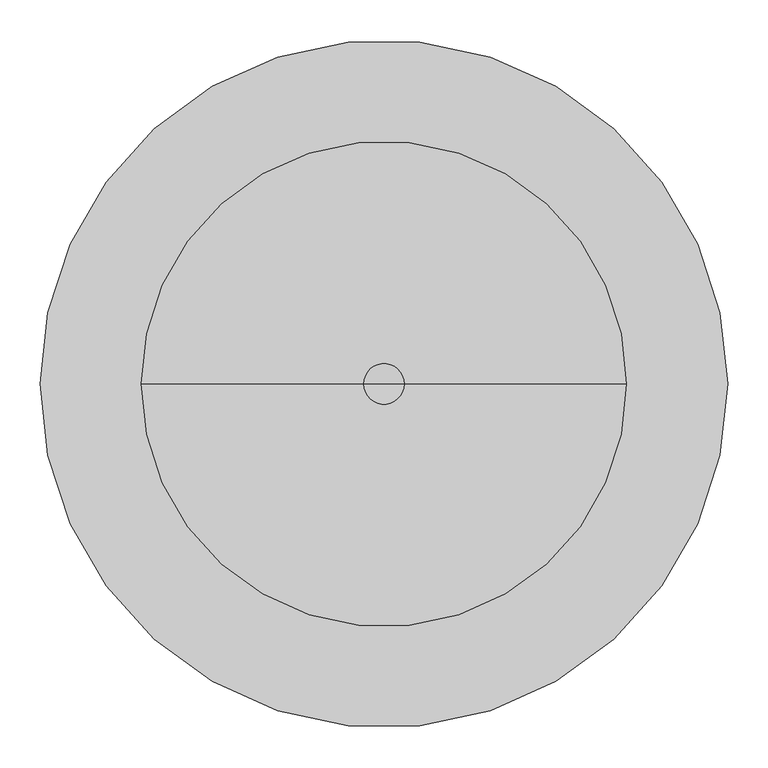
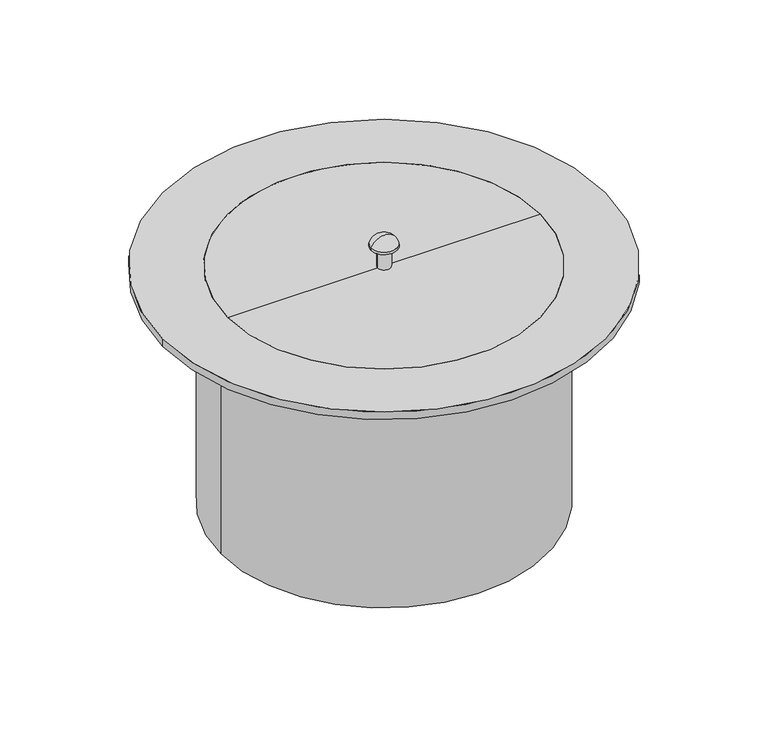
"""IFC4 building model written with IfcOpenShell, lengths in millimetres: proxy geometry, GRAF DW Tele Dome Shaft Maxi - Pedestrian Load : DW Tele Dome Shaft Maxi - Pedestrian Load."""

from ifc_helpers import new_model, si_unit, point, frame, origin, origin_2d, place, context, project, spatial, polyline, circle_curve, ellipse_curve, trimmed, segment, composite_curve, outline, extrude, source, transform, mapped, element, save
from ifc_brep_helpers import plane_surface, cylinder_surface, revolved_surface, advanced_brep


def specialty_equipment_d7f88c08(model_context):
    return source(origin(), model_context, "Body", "SolidModel", [
        advanced_brep(
        [(75.0, 0.0, -165.0), (-75.0, 0.0, -165.0), (-65.0, 0.0, -155.0), (65.0, 0.0, -155.0), (75.0, 0.0, -230.0), (-75.0, 0.0, -230.0), (12.5, 0.0, -240.0), (-12.5, 0.0, -240.0), (12.5, 0.0, -250.0), (-12.5, 0.0, -250.0), (0.0, 0.0, -250.0), (0.0, 0.0, -150.0)],
        [
            (0, 1, circle_curve(frame((0.0, 0.0, -165.0), z_axis=(0.0, 0.0, 1.0), x_axis=(-1.0, 0.0, 0.0)), 75.0)),
            (1, 2, circle_curve(frame((-65.0, 0.0, -165.0), z_axis=(0.0, 1.0, 0.0), x_axis=(1.0, 0.0, 0.0)), 10.0)),
            (2, 3, circle_curve(frame((0.0, 0.0, -155.0), z_axis=(0.0, 0.0, -1.0), x_axis=(-1.0, 0.0, 0.0)), 65.0)),
            (3, 0, circle_curve(frame((65.0, 0.0, -165.0), z_axis=(0.0, 1.0, 0.0), x_axis=(-1.0, 0.0, 0.0)), 10.0)),
            (1, 0, circle_curve(frame((0.0, 0.0, -165.0), z_axis=(0.0, 0.0, 1.0), x_axis=(-1.0, 0.0, 0.0)), 75.0)),
            (3, 2, circle_curve(frame((0.0, 0.0, -155.0), z_axis=(0.0, 0.0, -1.0), x_axis=(-1.0, 0.0, 0.0)), 65.0)),
            (4, 5, circle_curve(frame((0.0, 0.0, -230.0), z_axis=(0.0, 0.0, 1.0), x_axis=(-1.0, 0.0, 0.0)), 75.0)),
            (5, 1),
            (0, 4),
            (5, 4, circle_curve(frame((0.0, 0.0, -230.0), z_axis=(0.0, 0.0, 1.0), x_axis=(-1.0, 0.0, 0.0)), 75.0)),
            (6, 7, circle_curve(frame((0.0, 0.0, -240.0), z_axis=(0.0, 0.0, 1.0), x_axis=(-1.0, 0.0, 0.0)), 12.5)),
            (7, 5),
            (4, 6),
            (7, 6, circle_curve(frame((0.0, 0.0, -240.0), z_axis=(0.0, 0.0, 1.0), x_axis=(-1.0, 0.0, 0.0)), 12.5)),
            (8, 9, circle_curve(frame((0.0, 0.0, -250.0), z_axis=(0.0, 0.0, 1.0), x_axis=(-1.0, 0.0, 0.0)), 12.5)),
            (9, 7),
            (6, 8),
            (9, 8, circle_curve(frame((0.0, 0.0, -250.0), z_axis=(0.0, 0.0, 1.0), x_axis=(-1.0, 0.0, 0.0)), 12.5)),
            (10, 9),
            (8, 10),
            (2, 11, circle_curve(frame((0.0, 0.0, -575.0), z_axis=(0.0, 1.0, 0.0), x_axis=(1.0, 0.0, 0.0)), 425.0)),
            (11, 3, circle_curve(frame((0.0, 0.0, -575.0), z_axis=(0.0, 1.0, 0.0), x_axis=(-1.0, 0.0, 0.0)), 425.0)),
        ],
        [
            revolved_surface(trimmed(ellipse_curve(frame((-65.0, 0.0, -165.0), z_axis=(0.0, -1.0, 0.0), x_axis=(1.0, 0.0, 0.0)), 10.0, 10.0), [point((-65.0, 0.0, -155.0))], [point((-75.0, 0.0, -165.0))], True, "CARTESIAN"), (0.0, 0.0, -295.0), (0.0, 0.0, -1.0)),
            cylinder_surface(frame((0.0, 0.0, -295.0), z_axis=(0.0, 0.0, -1.0), x_axis=(-1.0, 0.0, 0.0)), 75.0),
            revolved_surface(polyline([(-75.0, 0.0, -230.0), (-12.5, 0.0, -240.0)]), (0.0, 0.0, -295.0), (0.0, 0.0, -1.0)),
            cylinder_surface(frame((0.0, 0.0, -295.0), z_axis=(0.0, 0.0, -1.0), x_axis=(-1.0, 0.0, 0.0)), 12.5),
            plane_surface(frame((0.0, 0.0, -250.0), z_axis=(0.0, 0.0, -1.0), x_axis=(-1.0, 0.0, 0.0))),
            revolved_surface(trimmed(ellipse_curve(frame((0.0, 0.0, -575.0), z_axis=(0.0, -1.0, 0.0), x_axis=(1.0, 0.0, 0.0)), 425.0, 425.0), [point((0.0, 0.0, -150.0))], [point((-65.0, 0.0, -155.0))], True, "CARTESIAN"), (0.0, 0.0, -295.0), (0.0, 0.0, -1.0)),
        ],
        [
            (0, [[1, 2, 3, 4]]),
            (0, [[5, -4, 6, -2]]),
            (1, [[7, 8, -1, 9]]),
            (1, [[10, -9, -5, -8]]),
            (2, [[11, 12, -7, 13]]),
            (2, [[14, -13, -10, -12]]),
            (3, [[15, 16, -11, 17]]),
            (3, [[18, -17, -14, -16]]),
            (4, [[19, -15, 20]]),
            (4, [[-20, -18, -19]]),
            (5, [[-3, 21, 22]]),
            (5, [[-6, -22, -21]]),
        ],
    ),
        advanced_brep(
        [(-313.0, 0.0, -14.9500624), (313.0, 0.0, -14.9500624), (-300.0, 0.0, -14.9500624), (300.0, 0.0, -14.9500624), (-313.0, 0.0, -476.0), (313.0, 0.0, -476.0), (-300.0, 0.0, -476.0), (300.0, 0.0, -476.0), (-313.0, 0.0, -261.0), (-313.0, 0.0, -271.0), (313.0, 0.0, -271.0), (313.0, 0.0, -261.0), (-300.0, 0.0, -250.0), (-298.9565186, 25.0, -250.0), (-298.9565186, 25.0, -260.0), (-300.0, 0.0, -260.0), (-300.0, 0.0, -261.0), (300.0, 0.0, -261.0), (300.0, 0.0, -260.0), (298.9565186, 25.0, -260.0), (298.9565186, 25.0, -250.0), (300.0, 0.0, -250.0), (300.0, 0.0, -271.0), (-300.0, 0.0, -271.0), (298.9565186, -25.0, -250.0), (298.9565186, -25.0, -260.0), (-298.9565186, -25.0, -260.0), (-298.9565186, -25.0, -250.0), (263.0, 0.0, -271.0), (-263.0, 0.0, -271.0), (263.0, 0.0, -261.0), (-263.0, 0.0, -261.0)],
        [
            (0, 1, circle_curve(frame((0.0, 0.0, -14.9500624), z_axis=(0.0, 0.0, 1.0), x_axis=(1.0, 0.0, 0.0)), 313.0)),
            (1, 0, circle_curve(frame((0.0, 0.0, -14.9500624), z_axis=(0.0, 0.0, 1.0), x_axis=(1.0, 0.0, 0.0)), 313.0)),
            (2, 3, circle_curve(frame((0.0, 0.0, -14.9500624), z_axis=(0.0, 0.0, -1.0), x_axis=(1.0, 0.0, 0.0)), 300.0)),
            (3, 2, circle_curve(frame((0.0, 0.0, -14.9500624), z_axis=(0.0, 0.0, -1.0), x_axis=(1.0, 0.0, 0.0)), 300.0)),
            (4, 5, circle_curve(frame((0.0, 0.0, -476.0), z_axis=(0.0, 0.0, -1.0), x_axis=(1.0, 0.0, 0.0)), 313.0)),
            (5, 4, circle_curve(frame((0.0, 0.0, -476.0), z_axis=(0.0, 0.0, -1.0), x_axis=(1.0, 0.0, 0.0)), 313.0)),
            (6, 7, circle_curve(frame((0.0, 0.0, -476.0), z_axis=(0.0, 0.0, 1.0), x_axis=(1.0, 0.0, 0.0)), 300.0)),
            (7, 6, circle_curve(frame((0.0, 0.0, -476.0), z_axis=(0.0, 0.0, 1.0), x_axis=(1.0, 0.0, 0.0)), 300.0)),
            (0, 8),
            (8, 9),
            (9, 4),
            (5, 10),
            (10, 11),
            (11, 1),
            (2, 12),
            (12, 13, circle_curve(frame((0.0, 0.0, -250.0), z_axis=(0.0, 0.0, -1.0), x_axis=(1.0, 0.0, 0.0)), 300.0)),
            (13, 14),
            (14, 15, circle_curve(frame((0.0, 0.0, -260.0), z_axis=(0.0, 0.0, 1.0), x_axis=(1.0, 0.0, 0.0)), 300.0)),
            (15, 16),
            (16, 17, circle_curve(frame((0.0, 0.0, -261.0), z_axis=(0.0, 0.0, -1.0), x_axis=(1.0, 0.0, 0.0)), 300.0)),
            (17, 18),
            (18, 19, circle_curve(frame((0.0, 0.0, -260.0), z_axis=(0.0, 0.0, 1.0), x_axis=(1.0, 0.0, 0.0)), 300.0)),
            (19, 20),
            (20, 21, circle_curve(frame((0.0, 0.0, -250.0), z_axis=(0.0, 0.0, -1.0), x_axis=(1.0, 0.0, 0.0)), 300.0)),
            (21, 3),
            (7, 22),
            (22, 23, circle_curve(frame((0.0, 0.0, -271.0), z_axis=(0.0, 0.0, 1.0), x_axis=(1.0, 0.0, 0.0)), 300.0)),
            (23, 6),
            (21, 24, circle_curve(frame((0.0, 0.0, -250.0), z_axis=(0.0, 0.0, -1.0), x_axis=(1.0, 0.0, 0.0)), 300.0)),
            (24, 25),
            (25, 18, circle_curve(frame((0.0, 0.0, -260.0), z_axis=(0.0, 0.0, 1.0), x_axis=(1.0, 0.0, 0.0)), 300.0)),
            (17, 16, circle_curve(frame((0.0, 0.0, -261.0), z_axis=(0.0, 0.0, -1.0), x_axis=(1.0, 0.0, 0.0)), 300.0)),
            (15, 26, circle_curve(frame((0.0, 0.0, -260.0), z_axis=(0.0, 0.0, 1.0), x_axis=(1.0, 0.0, 0.0)), 300.0)),
            (26, 27),
            (27, 12, circle_curve(frame((0.0, 0.0, -250.0), z_axis=(0.0, 0.0, -1.0), x_axis=(1.0, 0.0, 0.0)), 300.0)),
            (23, 22, circle_curve(frame((0.0, 0.0, -271.0), z_axis=(0.0, 0.0, 1.0), x_axis=(1.0, 0.0, 0.0)), 300.0)),
            (28, 29, circle_curve(frame((0.0, 0.0, -271.0), z_axis=(0.0, 0.0, 1.0), x_axis=(-1.0, 0.0, 0.0)), 263.0)),
            (29, 23),
            (22, 28),
            (29, 28, circle_curve(frame((0.0, 0.0, -271.0), z_axis=(0.0, 0.0, 1.0), x_axis=(-1.0, 0.0, 0.0)), 263.0)),
            (28, 30),
            (30, 31, circle_curve(frame((0.0, 0.0, -261.0), z_axis=(0.0, 0.0, 1.0), x_axis=(-1.0, 0.0, 0.0)), 263.0)),
            (31, 29),
            (31, 30, circle_curve(frame((0.0, 0.0, -261.0), z_axis=(0.0, 0.0, 1.0), x_axis=(-1.0, 0.0, 0.0)), 263.0)),
            (30, 17),
            (16, 31),
            (24, 27),
            (26, 25),
            (19, 14),
            (13, 20),
        ],
        [
            plane_surface(frame((313.0, 0.0, -14.9500624), z_axis=(0.0, 0.0, 1.0), x_axis=(0.0, 1.0, 0.0))),
            plane_surface(frame((313.0, 0.0, -476.0), z_axis=(0.0, 0.0, -1.0), x_axis=(0.0, -1.0, 0.0))),
            cylinder_surface(frame((0.0, 0.0, -476.0), z_axis=(0.0, 0.0, 1.0), x_axis=(1.0, 0.0, 0.0)), 313.0),
            revolved_surface(polyline([(300.0, 0.0, -261.0), (300.0, 0.0, -14.950062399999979)]), (0.0, 0.0, -340.0), (0.0, 0.0, -1.0)),
            revolved_surface(polyline([(300.0, 0.0, -476.0), (300.0, 0.0, -271.0)]), (0.0, 0.0, -340.0), (0.0, 0.0, -1.0)),
            plane_surface(frame((0.0, 0.0, -271.0), z_axis=(0.0, 0.0, -1.0), x_axis=(-1.0, 0.0, 0.0))),
            revolved_surface(polyline([(-263.0, 0.0, -271.0), (-263.0, 0.0, -261.0)]), (0.0, 0.0, -311.0), (0.0, 0.0, -1.0)),
            plane_surface(frame((0.0, 0.0, -261.0), z_axis=(0.0, 0.0, 1.0), x_axis=(-1.0, 0.0, 0.0))),
            plane_surface(frame((-311.0, -25.0, -250.0), z_axis=(0.0, -1.0, 0.0), x_axis=(-1.0, 0.0, 0.0))),
            plane_surface(frame((-311.0, 25.0, -250.0), z_axis=(0.0, 1.0, 0.0), x_axis=(1.0, 0.0, 0.0))),
            plane_surface(frame((311.0, -25.0, -250.0), z_axis=(0.0, 0.0, 1.0), x_axis=(0.0, 1.0, 0.0))),
            plane_surface(frame((-311.0, -25.0, -260.0), z_axis=(0.0, 0.0, -1.0), x_axis=(0.0, 1.0, 0.0))),
        ],
        [
            (0, [[1, 2], [3, 4]]),
            (1, [[5, 6], [7, 8]]),
            (2, [[-1, 9, 10, 11, -6, 12, 13, 14]]),
            (2, [[-2, -14, -13, -12, -5, -11, -10, -9]]),
            (3, [[-3, 15, 16, 17, 18, 19, 20, 21, 22, 23, 24, 25]]),
            (4, [[-8, 26, 27, 28]]),
            (3, [[-4, -25, 29, 30, 31, -21, 32, -19, 33, 34, 35, -15]]),
            (4, [[-7, -28, 36, -26]]),
            (5, [[37, 38, -27, 39]]),
            (5, [[40, -39, -36, -38]]),
            (6, [[-37, 41, 42, 43]]),
            (6, [[-40, -43, 44, -41]]),
            (7, [[-42, 45, -20, 46]]),
            (7, [[-44, -46, -32, -45]]),
            (8, [[47, -34, 48, -30]]),
            (9, [[49, -17, 50, -23]]),
            (10, [[-47, -29, -24, -50, -16, -35]]),
            (11, [[-48, -33, -18, -49, -22, -31]]),
        ],
    ),
        advanced_brep(
        [(0.0, 0.0, 0.0), (-12.499942, 0.0, 0.0), (12.499942, 0.0, 0.0), (-12.499942, 0.0, 40.0), (12.499942, 0.0, 40.0), (24.999942, 0.0, 45.0), (-24.999942, 0.0, 45.0), (0.0, 0.0, 62.4319426), (24.999942, 0.0, 40.0), (-24.999942, 0.0, 40.0)],
        [
            (0, 1),
            (1, 2, circle_curve(frame((0.0, 0.0, 0.0), z_axis=(0.0, 0.0, -1.0), x_axis=(-1.0, 0.0, 0.0)), 12.499942)),
            (2, 0),
            (2, 1, circle_curve(frame((0.0, 0.0, 0.0), z_axis=(0.0, 0.0, -1.0), x_axis=(-1.0, 0.0, 0.0)), 12.499942)),
            (1, 3),
            (3, 4, circle_curve(frame((0.0, 0.0, 40.0), z_axis=(0.0, 0.0, -1.0), x_axis=(-1.0, 0.0, 0.0)), 12.499942)),
            (4, 2),
            (4, 3, circle_curve(frame((0.0, 0.0, 40.0), z_axis=(0.0, 0.0, -1.0), x_axis=(-1.0, 0.0, 0.0)), 12.499942)),
            (5, 6, circle_curve(frame((0.0, 0.0, 45.0), z_axis=(0.0, 0.0, 1.0), x_axis=(-1.0, 0.0, 0.0)), 24.999942)),
            (6, 7, circle_curve(frame((5.8e-05, 0.0, 35.7891109), z_axis=(0.0, 1.0, 0.0), x_axis=(1.0, 0.0, 0.0)), 26.6428316)),
            (7, 5, circle_curve(frame((-5.8e-05, 0.0, 35.7891109), z_axis=(0.0, 1.0, 0.0), x_axis=(-1.0, 0.0, 0.0)), 26.6428316)),
            (6, 5, circle_curve(frame((0.0, 0.0, 45.0), z_axis=(0.0, 0.0, 1.0), x_axis=(-1.0, 0.0, 0.0)), 24.999942)),
            (8, 9, circle_curve(frame((0.0, 0.0, 40.0), z_axis=(0.0, 0.0, 1.0), x_axis=(-1.0, 0.0, 0.0)), 24.999942)),
            (9, 6),
            (5, 8),
            (9, 8, circle_curve(frame((0.0, 0.0, 40.0), z_axis=(0.0, 0.0, 1.0), x_axis=(-1.0, 0.0, 0.0)), 24.999942)),
            (3, 9),
            (8, 4),
        ],
        [
            plane_surface(frame((0.0, 0.0, 0.0), z_axis=(0.0, 0.0, -1.0), x_axis=(-1.0, 0.0, 0.0))),
            cylinder_surface(frame((0.0, 0.0, -10.0), z_axis=(0.0, 0.0, -1.0), x_axis=(-1.0, 0.0, 0.0)), 12.499942),
            revolved_surface(trimmed(ellipse_curve(frame((5.8e-05, 0.0, 35.7891109), z_axis=(0.0, -1.0, 0.0), x_axis=(1.0, 0.0, 0.0)), 26.6428316, 26.6428316), [point((0.0, 0.0, 62.4319426))], [point((-24.999942, 0.0, 45.0))], True, "CARTESIAN"), (0.0, 0.0, -10.0), (0.0, 0.0, -1.0)),
            cylinder_surface(frame((0.0, 0.0, -10.0), z_axis=(0.0, 0.0, -1.0), x_axis=(-1.0, 0.0, 0.0)), 24.999942),
            plane_surface(frame((0.0, 0.0, 40.0), z_axis=(0.0, 0.0, -1.0), x_axis=(-1.0, 0.0, 0.0))),
        ],
        [
            (0, [[1, 2, 3]]),
            (0, [[-3, 4, -1]]),
            (1, [[-2, 5, 6, 7]]),
            (1, [[-4, -7, 8, -5]]),
            (2, [[9, 10, 11]]),
            (2, [[12, -11, -10]]),
            (3, [[13, 14, -9, 15]]),
            (3, [[16, -15, -12, -14]]),
            (4, [[-6, 17, -13, 18]]),
            (4, [[-8, -18, -16, -17]]),
        ],
    ),
        extrude(outline(composite_curve([segment(trimmed(circle_curve(origin_2d(), 425.0), [point((-425.0, 0.0))], [point((425.0, 0.0))], False, "CARTESIAN"), True, "CONTINUOUS"), segment(trimmed(circle_curve(origin_2d(), 425.0), [point((425.0, 0.0))], [point((-425.0, 0.0))], False, "CARTESIAN"), True, "CONTINUOUS")], self_intersect=False), holes=[composite_curve([segment(trimmed(circle_curve(origin_2d(), 300.0), [point((-300.0, 0.0))], [point((300.0, 0.0))], True, "CARTESIAN"), True, "CONTINUOUS"), segment(trimmed(circle_curve(origin_2d(), 300.0), [point((300.0, 0.0))], [point((-300.0, 0.0))], True, "CARTESIAN"), True, "CONTINUOUS")], self_intersect=False)]), frame((0.0, 0.0, -14.9500624), z_axis=(0.0, 0.0, 1.0), x_axis=(1.0, 0.0, 0.0)), (0.0, 0.0, 1.0), 14.9500624),
        extrude(outline(composite_curve([segment(trimmed(circle_curve(origin_2d(), 313.0), [point((-260.5755532, -173.4052511))], [point((-208.7240033, -233.2451295))], True, "CARTESIAN"), True, "CONTINUOUS"), segment(polyline([(-208.7240033, -233.2451295), (-225.0974564, -252.1411016)]), True, "CONTINUOUS"), segment(trimmed(circle_curve(origin_2d(), 338.0), [point((-225.0974564, -252.1411016))], [point((-281.6093769, -186.9228688))], False, "CARTESIAN"), True, "CONTINUOUS"), segment(polyline([(-281.6093769, -186.9228688), (-260.5755532, -173.4052511)]), True, "CONTINUOUS")], self_intersect=False)), frame((0.0, 0.0, -40.0), z_axis=(0.0, 0.0, 1.0), x_axis=(1.0, 0.0, 0.0)), (0.0, 0.0, 1.0), 25.0499376),
        extrude(outline(composite_curve([segment(polyline([(-265.9819613, -164.9927157), (-287.015785, -178.5103334)]), True, "CONTINUOUS"), segment(trimmed(circle_curve(origin_2d(), 338.0), [point((-287.015785, -178.5103334))], [point((-322.8644761, -100.0126494))], False, "CARTESIAN"), True, "CONTINUOUS"), segment(polyline([(-322.8644761, -100.0126494), (-298.8743171, -92.9685031)]), True, "CONTINUOUS"), segment(trimmed(circle_curve(origin_2d(), 313.0), [point((-298.8743171, -92.9685031))], [point((-265.9819613, -164.9927157))], True, "CARTESIAN"), True, "CONTINUOUS")], self_intersect=False)), frame((0.0, 0.0, -40.0), z_axis=(0.0, 0.0, 1.0), x_axis=(1.0, 0.0, 0.0)), (0.0, 0.0, 1.0), 25.0499376),
        extrude(outline(composite_curve([segment(polyline([(-312.9600613, 5.0), (-337.9630157, 5.0)]), True, "CONTINUOUS"), segment(trimmed(circle_curve(origin_2d(), 338.0), [point((-337.9630157, 5.0))], [point((-325.6818017, 90.4177197))], False, "CARTESIAN"), True, "CONTINUOUS"), segment(polyline([(-325.6818017, 90.4177197), (-301.6916427, 83.3735734)]), True, "CONTINUOUS"), segment(trimmed(circle_curve(origin_2d(), 313.0), [point((-301.6916427, 83.3735734))], [point((-312.9600613, 5.0))], True, "CARTESIAN"), True, "CONTINUOUS")], self_intersect=False)), frame((0.0, 0.0, -40.0), z_axis=(0.0, 0.0, 1.0), x_axis=(1.0, 0.0, 0.0)), (0.0, 0.0, 1.0), 25.0499376),
        extrude(outline(composite_curve([segment(trimmed(circle_curve(origin_2d(), 313.0), [point((-312.9600613, -5.0))], [point((-301.6916427, -83.3735734))], True, "CARTESIAN"), True, "CONTINUOUS"), segment(polyline([(-301.6916427, -83.3735734), (-325.6818017, -90.4177197)]), True, "CONTINUOUS"), segment(trimmed(circle_curve(origin_2d(), 338.0), [point((-325.6818017, -90.4177197))], [point((-337.9630157, -5.0))], False, "CARTESIAN"), True, "CONTINUOUS"), segment(polyline([(-337.9630157, -5.0), (-312.9600613, -5.0)]), True, "CONTINUOUS")], self_intersect=False)), frame((0.0, 0.0, -40.0), z_axis=(0.0, 0.0, 1.0), x_axis=(1.0, 0.0, 0.0)), (0.0, 0.0, 1.0), 25.0499376),
        extrude(outline(composite_curve([segment(trimmed(circle_curve(origin_2d(), 313.0), [point((-265.9819613, 164.9927157))], [point((-298.8743171, 92.9685031))], True, "CARTESIAN"), True, "CONTINUOUS"), segment(polyline([(-298.8743171, 92.9685031), (-322.8644761, 100.0126494)]), True, "CONTINUOUS"), segment(trimmed(circle_curve(origin_2d(), 338.0), [point((-322.8644761, 100.0126494))], [point((-287.015785, 178.5103334))], False, "CARTESIAN"), True, "CONTINUOUS"), segment(polyline([(-287.015785, 178.5103334), (-265.9819613, 164.9927157)]), True, "CONTINUOUS")], self_intersect=False)), frame((0.0, 0.0, -40.0), z_axis=(0.0, 0.0, 1.0), x_axis=(1.0, 0.0, 0.0)), (0.0, 0.0, 1.0), 25.0499376),
        extrude(outline(composite_curve([segment(polyline([(-260.5755532, 173.4052511), (-281.6093769, 186.9228688)]), True, "CONTINUOUS"), segment(trimmed(circle_curve(origin_2d(), 338.0), [point((-281.6093769, 186.9228688))], [point((-225.0974564, 252.1411016))], False, "CARTESIAN"), True, "CONTINUOUS"), segment(polyline([(-225.0974564, 252.1411016), (-208.7240033, 233.2451295)]), True, "CONTINUOUS"), segment(trimmed(circle_curve(origin_2d(), 313.0), [point((-208.7240033, 233.2451295))], [point((-260.5755532, 173.4052511))], True, "CARTESIAN"), True, "CONTINUOUS")], self_intersect=False)), frame((0.0, 0.0, -40.0), z_axis=(0.0, 0.0, 1.0), x_axis=(1.0, 0.0, 0.0)), (0.0, 0.0, 1.0), 25.0499376),
        extrude(outline(composite_curve([segment(polyline([(208.7240033, 233.2451295), (225.0974564, 252.1411016)]), True, "CONTINUOUS"), segment(trimmed(circle_curve(origin_2d(), 338.0), [point((225.0974564, 252.1411016))], [point((281.6093769, 186.9228688))], False, "CARTESIAN"), True, "CONTINUOUS"), segment(polyline([(281.6093769, 186.9228688), (260.5755532, 173.4052511)]), True, "CONTINUOUS"), segment(trimmed(circle_curve(origin_2d(), 313.0), [point((260.5755532, 173.4052511))], [point((208.7240033, 233.2451295))], True, "CARTESIAN"), True, "CONTINUOUS")], self_intersect=False)), frame((0.0, 0.0, -40.0), z_axis=(0.0, 0.0, 1.0), x_axis=(1.0, 0.0, 0.0)), (0.0, 0.0, 1.0), 25.0499376),
        extrude(outline(composite_curve([segment(trimmed(circle_curve(origin_2d(), 313.0), [point((201.1665076, 239.7937368))], [point((134.5564679, 282.60141))], True, "CARTESIAN"), True, "CONTINUOUS"), segment(polyline([(134.5564679, 282.60141), (144.9430705, 305.3448973)]), True, "CONTINUOUS"), segment(trimmed(circle_curve(origin_2d(), 338.0), [point((144.9430705, 305.3448973))], [point((217.5399607, 258.689709))], False, "CARTESIAN"), True, "CONTINUOUS"), segment(polyline([(217.5399607, 258.689709), (201.1665076, 239.7937368)]), True, "CONTINUOUS")], self_intersect=False)), frame((0.0, 0.0, -40.0), z_axis=(0.0, 0.0, 1.0), x_axis=(1.0, 0.0, 0.0)), (0.0, 0.0, 1.0), 25.0499376),
        extrude(outline(composite_curve([segment(trimmed(circle_curve(origin_2d(), 313.0), [point((39.5897533, 310.4861534))], [point((-39.5897533, 310.4861534))], True, "CARTESIAN"), True, "CONTINUOUS"), segment(polyline([(-39.5897533, 310.4861534), (-43.1480447, 335.2346137)]), True, "CONTINUOUS"), segment(trimmed(circle_curve(origin_2d(), 338.0), [point((-43.1480447, 335.2346137))], [point((43.1480447, 335.2346137))], False, "CARTESIAN"), True, "CONTINUOUS"), segment(polyline([(43.1480447, 335.2346137), (39.5897533, 310.4861534)]), True, "CONTINUOUS")], self_intersect=False)), frame((0.0, 0.0, -40.0), z_axis=(0.0, 0.0, 1.0), x_axis=(1.0, 0.0, 0.0)), (0.0, 0.0, 1.0), 25.0499376),
        extrude(outline(composite_curve([segment(polyline([(49.4879677, 309.063005), (53.0462591, 333.8114653)]), True, "CONTINUOUS"), segment(trimmed(circle_curve(origin_2d(), 338.0), [point((53.0462591, 333.8114653))], [point((135.8467506, 309.4990474))], False, "CARTESIAN"), True, "CONTINUOUS"), segment(polyline([(135.8467506, 309.4990474), (125.460148, 286.7555601)]), True, "CONTINUOUS"), segment(trimmed(circle_curve(origin_2d(), 313.0), [point((125.460148, 286.7555601))], [point((49.4879677, 309.063005))], True, "CARTESIAN"), True, "CONTINUOUS")], self_intersect=False)), frame((0.0, 0.0, -40.0), z_axis=(0.0, 0.0, 1.0), x_axis=(1.0, 0.0, 0.0)), (0.0, 0.0, 1.0), 25.0499376),
        extrude(outline(composite_curve([segment(polyline([(-125.460148, 286.7555601), (-135.8467506, 309.4990474)]), True, "CONTINUOUS"), segment(trimmed(circle_curve(origin_2d(), 338.0), [point((-135.8467506, 309.4990474))], [point((-53.0462591, 333.8114653))], False, "CARTESIAN"), True, "CONTINUOUS"), segment(polyline([(-53.0462591, 333.8114653), (-49.4879677, 309.063005)]), True, "CONTINUOUS"), segment(trimmed(circle_curve(origin_2d(), 313.0), [point((-49.4879677, 309.063005))], [point((-125.460148, 286.7555601))], True, "CARTESIAN"), True, "CONTINUOUS")], self_intersect=False)), frame((0.0, 0.0, -40.0), z_axis=(0.0, 0.0, 1.0), x_axis=(1.0, 0.0, 0.0)), (0.0, 0.0, 1.0), 25.0499376),
        extrude(outline(composite_curve([segment(trimmed(circle_curve(origin_2d(), 313.0), [point((-134.5564679, 282.60141))], [point((-201.1665076, 239.7937368))], True, "CARTESIAN"), True, "CONTINUOUS"), segment(polyline([(-201.1665076, 239.7937368), (-217.5399607, 258.689709)]), True, "CONTINUOUS"), segment(trimmed(circle_curve(origin_2d(), 338.0), [point((-217.5399607, 258.689709))], [point((-144.9430705, 305.3448973))], False, "CARTESIAN"), True, "CONTINUOUS"), segment(polyline([(-144.9430705, 305.3448973), (-134.5564679, 282.60141)]), True, "CONTINUOUS")], self_intersect=False)), frame((0.0, 0.0, -40.0), z_axis=(0.0, 0.0, 1.0), x_axis=(1.0, 0.0, 0.0)), (0.0, 0.0, 1.0), 25.0499376),
        extrude(outline(composite_curve([segment(trimmed(circle_curve(origin_2d(), 313.0), [point((298.8743171, 92.9685031))], [point((265.9819613, 164.9927157))], True, "CARTESIAN"), True, "CONTINUOUS"), segment(polyline([(265.9819613, 164.9927157), (287.015785, 178.5103334)]), True, "CONTINUOUS"), segment(trimmed(circle_curve(origin_2d(), 338.0), [point((287.015785, 178.5103334))], [point((322.8644761, 100.0126494))], False, "CARTESIAN"), True, "CONTINUOUS"), segment(polyline([(322.8644761, 100.0126494), (298.8743171, 92.9685031)]), True, "CONTINUOUS")], self_intersect=False)), frame((0.0, 0.0, -40.0), z_axis=(0.0, 0.0, 1.0), x_axis=(1.0, 0.0, 0.0)), (0.0, 0.0, 1.0), 25.0499376),
        extrude(outline(composite_curve([segment(polyline([(301.6916427, 83.3735734), (325.6818017, 90.4177197)]), True, "CONTINUOUS"), segment(trimmed(circle_curve(origin_2d(), 338.0), [point((325.6818017, 90.4177197))], [point((337.9630157, 5.0))], False, "CARTESIAN"), True, "CONTINUOUS"), segment(polyline([(337.9630157, 5.0), (312.9600613, 5.0)]), True, "CONTINUOUS"), segment(trimmed(circle_curve(origin_2d(), 313.0), [point((312.9600613, 5.0))], [point((301.6916427, 83.3735734))], True, "CARTESIAN"), True, "CONTINUOUS")], self_intersect=False)), frame((0.0, 0.0, -40.0), z_axis=(0.0, 0.0, 1.0), x_axis=(1.0, 0.0, 0.0)), (0.0, 0.0, 1.0), 25.0499376),
        extrude(outline(composite_curve([segment(polyline([(298.8743171, -92.9685031), (322.8644761, -100.0126494)]), True, "CONTINUOUS"), segment(trimmed(circle_curve(origin_2d(), 338.0), [point((322.8644761, -100.0126494))], [point((287.015785, -178.5103334))], False, "CARTESIAN"), True, "CONTINUOUS"), segment(polyline([(287.015785, -178.5103334), (265.9819613, -164.9927157)]), True, "CONTINUOUS"), segment(trimmed(circle_curve(origin_2d(), 313.0), [point((265.9819613, -164.9927157))], [point((298.8743171, -92.9685031))], True, "CARTESIAN"), True, "CONTINUOUS")], self_intersect=False)), frame((0.0, 0.0, -40.0), z_axis=(0.0, 0.0, 1.0), x_axis=(1.0, 0.0, 0.0)), (0.0, 0.0, 1.0), 25.0499376),
        extrude(outline(composite_curve([segment(trimmed(circle_curve(origin_2d(), 313.0), [point((301.6916427, -83.3735734))], [point((312.9600613, -5.0))], True, "CARTESIAN"), True, "CONTINUOUS"), segment(polyline([(312.9600613, -5.0), (337.9630157, -5.0)]), True, "CONTINUOUS"), segment(trimmed(circle_curve(origin_2d(), 338.0), [point((337.9630157, -5.0))], [point((325.6818017, -90.4177197))], False, "CARTESIAN"), True, "CONTINUOUS"), segment(polyline([(325.6818017, -90.4177197), (301.6916427, -83.3735734)]), True, "CONTINUOUS")], self_intersect=False)), frame((0.0, 0.0, -40.0), z_axis=(0.0, 0.0, 1.0), x_axis=(1.0, 0.0, 0.0)), (0.0, 0.0, 1.0), 25.0499376),
        extrude(outline(composite_curve([segment(trimmed(circle_curve(origin_2d(), 313.0), [point((208.7240033, -233.2451295))], [point((260.5755532, -173.4052511))], True, "CARTESIAN"), True, "CONTINUOUS"), segment(polyline([(260.5755532, -173.4052511), (281.6093769, -186.9228688)]), True, "CONTINUOUS"), segment(trimmed(circle_curve(origin_2d(), 338.0), [point((281.6093769, -186.9228688))], [point((225.0974564, -252.1411016))], False, "CARTESIAN"), True, "CONTINUOUS"), segment(polyline([(225.0974564, -252.1411016), (208.7240033, -233.2451295)]), True, "CONTINUOUS")], self_intersect=False)), frame((0.0, 0.0, -40.0), z_axis=(0.0, 0.0, 1.0), x_axis=(1.0, 0.0, 0.0)), (0.0, 0.0, 1.0), 25.0499376),
        extrude(outline(composite_curve([segment(polyline([(201.1665076, -239.7937368), (217.5399607, -258.689709)]), True, "CONTINUOUS"), segment(trimmed(circle_curve(origin_2d(), 338.0), [point((217.5399607, -258.689709))], [point((144.9430705, -305.3448973))], False, "CARTESIAN"), True, "CONTINUOUS"), segment(polyline([(144.9430705, -305.3448973), (134.5564679, -282.60141)]), True, "CONTINUOUS"), segment(trimmed(circle_curve(origin_2d(), 313.0), [point((134.5564679, -282.60141))], [point((201.1665076, -239.7937368))], True, "CARTESIAN"), True, "CONTINUOUS")], self_intersect=False)), frame((0.0, 0.0, -40.0), z_axis=(0.0, 0.0, 1.0), x_axis=(1.0, 0.0, 0.0)), (0.0, 0.0, 1.0), 25.0499376),
        extrude(outline(composite_curve([segment(trimmed(circle_curve(origin_2d(), 313.0), [point((-125.460148, -286.7555601))], [point((-49.4879677, -309.063005))], True, "CARTESIAN"), True, "CONTINUOUS"), segment(polyline([(-49.4879677, -309.063005), (-53.0462591, -333.8114653)]), True, "CONTINUOUS"), segment(trimmed(circle_curve(origin_2d(), 338.0), [point((-53.0462591, -333.8114653))], [point((-135.8467506, -309.4990474))], False, "CARTESIAN"), True, "CONTINUOUS"), segment(polyline([(-135.8467506, -309.4990474), (-125.460148, -286.7555601)]), True, "CONTINUOUS")], self_intersect=False)), frame((0.0, 0.0, -40.0), z_axis=(0.0, 0.0, 1.0), x_axis=(1.0, 0.0, 0.0)), (0.0, 0.0, 1.0), 25.0499376),
        extrude(outline(composite_curve([segment(polyline([(-134.5564679, -282.60141), (-144.9430705, -305.3448973)]), True, "CONTINUOUS"), segment(trimmed(circle_curve(origin_2d(), 338.0), [point((-144.9430705, -305.3448973))], [point((-217.5399607, -258.689709))], False, "CARTESIAN"), True, "CONTINUOUS"), segment(polyline([(-217.5399607, -258.689709), (-201.1665076, -239.7937368)]), True, "CONTINUOUS"), segment(trimmed(circle_curve(origin_2d(), 313.0), [point((-201.1665076, -239.7937368))], [point((-134.5564679, -282.60141))], True, "CARTESIAN"), True, "CONTINUOUS")], self_intersect=False)), frame((0.0, 0.0, -40.0), z_axis=(0.0, 0.0, 1.0), x_axis=(1.0, 0.0, 0.0)), (0.0, 0.0, 1.0), 25.0499376),
        extrude(outline(composite_curve([segment(polyline([(39.5897533, -310.4861534), (43.1480447, -335.2346137)]), True, "CONTINUOUS"), segment(trimmed(circle_curve(origin_2d(), 338.0), [point((43.1480447, -335.2346137))], [point((-43.1480447, -335.2346137))], False, "CARTESIAN"), True, "CONTINUOUS"), segment(polyline([(-43.1480447, -335.2346137), (-39.5897533, -310.4861534)]), True, "CONTINUOUS"), segment(trimmed(circle_curve(origin_2d(), 313.0), [point((-39.5897533, -310.4861534))], [point((39.5897533, -310.4861534))], True, "CARTESIAN"), True, "CONTINUOUS")], self_intersect=False)), frame((0.0, 0.0, -40.0), z_axis=(0.0, 0.0, 1.0), x_axis=(1.0, 0.0, 0.0)), (0.0, 0.0, 1.0), 25.0499376),
        extrude(outline(composite_curve([segment(trimmed(circle_curve(origin_2d(), 313.0), [point((49.4879677, -309.063005))], [point((125.460148, -286.7555601))], True, "CARTESIAN"), True, "CONTINUOUS"), segment(polyline([(125.460148, -286.7555601), (135.8467506, -309.4990474)]), True, "CONTINUOUS"), segment(trimmed(circle_curve(origin_2d(), 338.0), [point((135.8467506, -309.4990474))], [point((53.0462591, -333.8114653))], False, "CARTESIAN"), True, "CONTINUOUS"), segment(polyline([(53.0462591, -333.8114653), (49.4879677, -309.063005)]), True, "CONTINUOUS")], self_intersect=False)), frame((0.0, 0.0, -40.0), z_axis=(0.0, 0.0, 1.0), x_axis=(1.0, 0.0, 0.0)), (0.0, 0.0, 1.0), 25.0499376),
        extrude(outline(polyline([(-42.0990731, 0.0), (22.2616361, 0.0), (-42.0990731, -100.6257242), (-42.0990731, 0.0)])), frame((125.4767391, -286.7918896, -57.0491355), z_axis=(0.9096319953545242, 0.4154150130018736, 0.0), x_axis=(0.0, 0.0, -1.0)), (0.0, 0.0, 1.0), 10.0),
        extrude(outline(polyline([(-42.0990731, 0.0), (22.2616361, 0.0), (-42.0990731, -100.6257243), (-42.0990731, 0.0)])), frame((39.5954372, -310.5256855, -57.0491355), z_axis=(0.9898214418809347, 0.14231483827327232, 0.0), x_axis=(0.0, 0.0, -1.0)), (0.0, 0.0, 1.0), 10.0),
        extrude(outline(polyline([(0.0, 0.0), (0.0, -64.3607092), (-100.6257242, 0.0), (0.0, 0.0)])), frame((201.1926619, -239.8239204, -14.9500624), z_axis=(0.7557495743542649, 0.6548607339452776, 0.0), x_axis=(-0.6548607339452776, 0.7557495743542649, 0.0)), (0.0, 0.0, 1.0), 10.0),
        extrude(outline(polyline([(0.0, 0.0), (0.0, -64.3607092), (-100.6257242, 0.0), (0.0, 0.0)])), frame((260.6091517, -173.4268435, -14.9500624), z_axis=(0.5406408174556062, 0.8412535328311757, 0.0), x_axis=(-0.8412535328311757, 0.5406408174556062, 0.0)), (0.0, 0.0, 1.0), 10.0),
        extrude(outline(polyline([(0.0, 0.0), (0.0, -64.3607092), (-100.6257241, 0.0), (0.0, 0.0)])), frame((298.912638, -92.9797552, -14.9500624), z_axis=(0.2817325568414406, 0.9594929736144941, 0.0), x_axis=(-0.9594929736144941, 0.2817325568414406, 0.0)), (0.0, 0.0, 1.0), 10.0),
        extrude(outline(polyline([(0.0, 0.0), (100.6257242, 0.0), (0.0, -64.3607092), (0.0, 0.0)])), frame((-125.4767391, -286.7918896, -14.9500624), z_axis=(-0.9096319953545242, 0.41541501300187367, 0.0), x_axis=(-0.41541501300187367, -0.9096319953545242, 0.0)), (0.0, 0.0, 1.0), 10.0),
        extrude(outline(polyline([(0.0, 0.0), (100.6257243, 0.0), (0.0, -64.3607092), (0.0, 0.0)])), frame((-39.5954372, -310.5256855, -14.9500624), z_axis=(-0.9898214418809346, 0.14231483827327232, 0.0), x_axis=(-0.14231483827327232, -0.9898214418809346, 0.0)), (0.0, 0.0, 1.0), 10.0),
        extrude(outline(polyline([(42.0990731, 0.0), (42.0990731, -100.6257242), (-22.2616361, 0.0), (42.0990731, 0.0)])), frame((-201.1926619, -239.8239204, -57.0491355), z_axis=(-0.7557495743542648, 0.6548607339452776, 0.0), x_axis=(0.0, 0.0, 1.0)), (0.0, 0.0, 1.0), 10.0),
        extrude(outline(polyline([(42.0990731, 0.0), (42.0990731, -100.6257242), (-22.2616361, 0.0), (42.0990731, 0.0)])), frame((-260.6091517, -173.4268435, -57.0491355), z_axis=(-0.5406408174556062, 0.8412535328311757, 0.0), x_axis=(0.0, 0.0, 1.0)), (0.0, 0.0, 1.0), 10.0),
        extrude(outline(polyline([(42.0990731, 0.0), (42.0990731, -100.6257241), (-22.2616361, 0.0), (42.0990731, 0.0)])), frame((-298.912638, -92.9797552, -57.0491355), z_axis=(-0.2817325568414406, 0.9594929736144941, 0.0), x_axis=(0.0, 0.0, 1.0)), (0.0, 0.0, 1.0), 10.0),
        extrude(outline(polyline([(0.0, 0.0), (0.0, -64.3607092), (-100.6257242, 0.0), (0.0, 0.0)])), frame((134.573059, 282.6377395, -14.9500624), z_axis=(-0.9096319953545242, 0.41541501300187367, 0.0), x_axis=(-0.41541501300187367, -0.9096319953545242, 0.0)), (0.0, 0.0, 1.0), 10.0),
        extrude(outline(polyline([(0.0, 0.0), (0.0, -64.3607092), (-100.6257243, 0.0), (0.0, 0.0)])), frame((49.4936516, 309.1025371, -14.9500624), z_axis=(-0.9898214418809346, 0.14231483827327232, 0.0), x_axis=(-0.14231483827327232, -0.9898214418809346, 0.0)), (0.0, 0.0, 1.0), 10.0),
        extrude(outline(polyline([(-42.0990731, 0.0), (22.2616361, 0.0), (-42.0990731, -100.6257242), (-42.0990731, 0.0)])), frame((208.7501576, 233.2753131, -57.0491355), z_axis=(-0.7557495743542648, 0.6548607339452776, 0.0), x_axis=(0.0, 0.0, -1.0)), (0.0, 0.0, 1.0), 10.0),
        extrude(outline(polyline([(-42.0990731, 0.0), (22.2616361, 0.0), (-42.0990731, -100.6257242), (-42.0990731, 0.0)])), frame((266.0155599, 165.0143082, -57.0491355), z_axis=(-0.5406408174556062, 0.8412535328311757, 0.0), x_axis=(0.0, 0.0, -1.0)), (0.0, 0.0, 1.0), 10.0),
        extrude(outline(polyline([(-42.0990731, 0.0), (22.2616361, 0.0), (-42.0990731, -100.6257243), (-42.0990731, 0.0)])), frame((301.7299635, 83.3848254, -57.0491355), z_axis=(-0.2817325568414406, 0.9594929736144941, 0.0), x_axis=(0.0, 0.0, -1.0)), (0.0, 0.0, 1.0), 10.0),
        extrude(outline(polyline([(-14.9500624, 313.0), (-79.3107716, 313.0), (-14.9500624, 413.6257242), (-14.9500624, 313.0)])), frame((0.0, -5.0, 0.0), z_axis=(0.0, 1.0, 0.0), x_axis=(0.0, 0.0, 1.0)), (0.0, 0.0, 1.0), 10.0),
        extrude(outline(polyline([(42.0990731, 0.0), (42.0990731, -100.6257242), (-22.2616361, 0.0), (42.0990731, 0.0)])), frame((-134.573059, 282.6377395, -57.0491355), z_axis=(0.9096319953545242, 0.4154150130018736, 0.0), x_axis=(0.0, 0.0, 1.0)), (0.0, 0.0, 1.0), 10.0),
        extrude(outline(polyline([(42.0990731, 0.0), (42.0990731, -100.6257243), (-22.2616361, 0.0), (42.0990731, 0.0)])), frame((-49.4936516, 309.1025371, -57.0491355), z_axis=(0.9898214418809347, 0.14231483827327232, 0.0), x_axis=(0.0, 0.0, 1.0)), (0.0, 0.0, 1.0), 10.0),
        extrude(outline(polyline([(0.0, 0.0), (100.6257242, 0.0), (0.0, -64.3607092), (0.0, 0.0)])), frame((-208.7501576, 233.2753131, -14.9500624), z_axis=(0.7557495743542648, 0.6548607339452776, 0.0), x_axis=(-0.6548607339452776, 0.7557495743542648, 0.0)), (0.0, 0.0, 1.0), 10.0),
        extrude(outline(polyline([(0.0, 0.0), (100.6257242, 0.0), (0.0, -64.3607092), (0.0, 0.0)])), frame((-266.0155599, 165.0143082, -14.9500624), z_axis=(0.5406408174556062, 0.8412535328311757, 0.0), x_axis=(-0.8412535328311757, 0.5406408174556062, 0.0)), (0.0, 0.0, 1.0), 10.0),
        extrude(outline(polyline([(0.0, 0.0), (100.6257243, 0.0), (0.0, -64.3607092), (0.0, 0.0)])), frame((-301.7299635, 83.3848254, -14.9500624), z_axis=(0.2817325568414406, 0.9594929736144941, 0.0), x_axis=(-0.9594929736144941, 0.2817325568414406, 0.0)), (0.0, 0.0, 1.0), 10.0),
        advanced_brep(
        [(0.0, 0.0, -14.9500624), (-300.0, 0.0, -14.9500624), (300.0, 0.0, -14.9500624), (-300.0, 0.0, 0.0), (300.0, 0.0, 0.0), (0.0, 0.0, 0.0)],
        [
            (0, 1),
            (1, 2, circle_curve(frame((0.0, 0.0, -14.9500624), z_axis=(0.0, 0.0, -1.0), x_axis=(-1.0, 0.0, 0.0)), 300.0)),
            (2, 0),
            (2, 1, circle_curve(frame((0.0, 0.0, -14.9500624), z_axis=(0.0, 0.0, -1.0), x_axis=(-1.0, 0.0, 0.0)), 300.0)),
            (1, 3),
            (3, 4, circle_curve(frame((0.0, 0.0, 0.0), z_axis=(0.0, 0.0, -1.0), x_axis=(-1.0, 0.0, 0.0)), 300.0)),
            (4, 2),
            (4, 3, circle_curve(frame((0.0, 0.0, 0.0), z_axis=(0.0, 0.0, -1.0), x_axis=(-1.0, 0.0, 0.0)), 300.0)),
            (3, 5),
            (5, 4),
        ],
        [
            plane_surface(frame((0.0, 0.0, -14.9500624), z_axis=(0.0, 0.0, -1.0), x_axis=(-1.0, 0.0, 0.0))),
            cylinder_surface(frame((0.0, 0.0, -119.9500624), z_axis=(0.0, 0.0, -1.0), x_axis=(-1.0, 0.0, 0.0)), 300.0),
            plane_surface(frame((0.0, 0.0, 0.0), z_axis=(0.0, 0.0, 1.0), x_axis=(-1.0, 0.0, 0.0))),
        ],
        [
            (0, [[1, 2, 3]]),
            (0, [[-3, 4, -1]]),
            (1, [[-2, 5, 6, 7]]),
            (1, [[-4, -7, 8, -5]]),
            (2, [[-6, 9, 10]]),
            (2, [[-8, -10, -9]]),
        ],
    ),
        extrude(outline(polyline([(-14.9500624, -313.0), (-14.9500624, -413.6257242), (-79.3107716, -313.0), (-14.9500624, -313.0)])), frame((0.0, -5.0, 0.0), z_axis=(0.0, 1.0, 0.0), x_axis=(0.0, 0.0, 1.0)), (0.0, 0.0, 1.0), 10.0),
    ])


if __name__ == "__main__":
    model = new_model("IFC4")
    model_context = context("Model", 3, world=origin())
    ifc_project = project(units=[si_unit("LENGTHUNIT", "METRE", prefix="MILLI")], contexts=[model_context])
    site = spatial("IfcSite", under=ifc_project)
    building = spatial("IfcBuilding", under=site)
    placement = place(None, origin())
    specialty_equipment_shape = specialty_equipment_d7f88c08(model_context)
    element("IfcBuildingElementProxy", 1, Name="GRAF DW Tele Dome Shaft Maxi - Pedestrian Load : DW Tele Dome Shaft Maxi - Pedestrian Load", ObjectType="GRAF DW Tele Dome Shaft Maxi - Pedestrian Load : DW Tele Dome Shaft Maxi - Pedestrian Load", at=placement, inside=building, context=model_context, shape_type="MappedRepresentation", body=[
        mapped(specialty_equipment_shape, transform((0.0, 0.0, 0.0), x_axis=(1.0, 0.0, 0.0), y_axis=(0.0, 1.0, 0.0), z_axis=(0.0, 0.0, 1.0))),
    ])
    save(model, "model.ifc")
